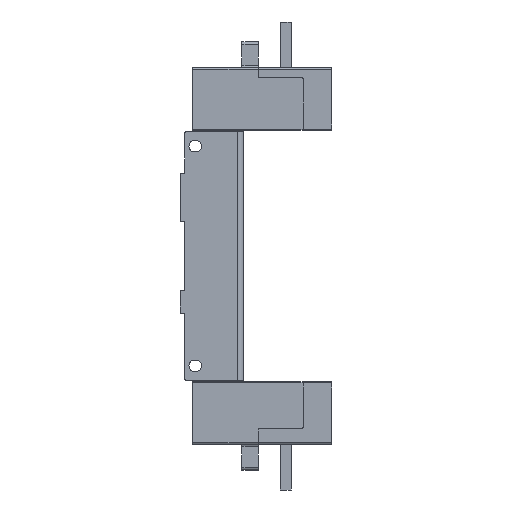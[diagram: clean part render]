
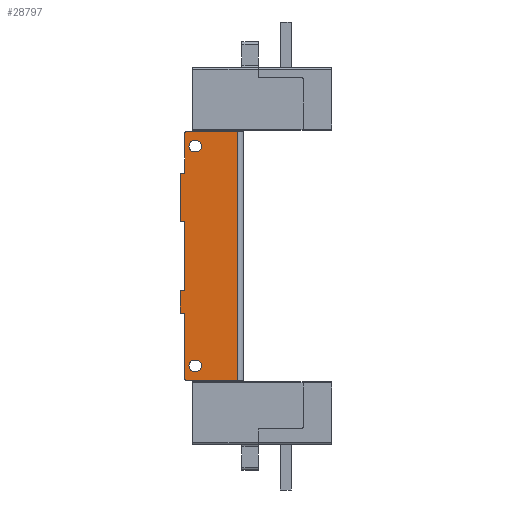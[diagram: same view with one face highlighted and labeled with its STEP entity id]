
A CAD part, left-side view. The second image highlights one B-rep face of the part: STEP entity #28797.
In plain terms, the highlighted planar face has unit normal (-1, 0, 0).
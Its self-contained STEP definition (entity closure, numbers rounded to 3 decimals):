
#25619=DIRECTION('',(0.,0.,1.));
#25620=VECTOR('',#25619,33.);
#25621=CARTESIAN_POINT('',(-67.,43.,26.));
#25622=LINE('',#25621,#25620);
#26422=DIRECTION('',(0.,1.,0.));
#26423=VECTOR('',#26422,37.5);
#26424=CARTESIAN_POINT('',(-67.,1.,-91.));
#26425=LINE('',#26424,#26423);
#26426=DIRECTION('',(0.,1.,0.));
#26427=VECTOR('',#26426,37.5);
#26428=CARTESIAN_POINT('',(-67.,1.,91.));
#26429=LINE('',#26428,#26427);
#26430=CARTESIAN_POINT('',(-67.,38.5,-90.));
#26431=DIRECTION('',(-1.,0.,0.));
#26432=DIRECTION('',(0.,1.,0.));
#26433=AXIS2_PLACEMENT_3D('',#26430,#26431,#26432);
#26435=DIRECTION('',(0.,0.,-1.));
#26436=VECTOR('',#26435,47.);
#26437=CARTESIAN_POINT('',(-67.,39.5,-43.));
#26438=LINE('',#26437,#26436);
#26439=CARTESIAN_POINT('',(-67.,40.5,-43.));
#26440=DIRECTION('',(1.,0.,0.));
#26441=DIRECTION('',(0.,0.,1.));
#26442=AXIS2_PLACEMENT_3D('',#26439,#26440,#26441);
#26444=CARTESIAN_POINT('',(-67.,42.,-41.));
#26445=DIRECTION('',(-1.,0.,0.));
#26446=DIRECTION('',(0.,1.,0.));
#26447=AXIS2_PLACEMENT_3D('',#26444,#26445,#26446);
#26449=DIRECTION('',(0.,1.,0.));
#26450=VECTOR('',#26449,2.5);
#26451=CARTESIAN_POINT('',(-67.,40.5,-25.));
#26452=LINE('',#26451,#26450);
#26453=CARTESIAN_POINT('',(-67.,40.5,-24.));
#26454=DIRECTION('',(1.,0.,0.));
#26455=DIRECTION('',(0.,-1.,0.));
#26456=AXIS2_PLACEMENT_3D('',#26453,#26454,#26455);
#26458=DIRECTION('',(0.,0.,-1.));
#26459=VECTOR('',#26458,48.);
#26460=CARTESIAN_POINT('',(-67.,39.5,24.));
#26461=LINE('',#26460,#26459);
#26462=CARTESIAN_POINT('',(-67.,40.5,24.));
#26463=DIRECTION('',(1.,0.,0.));
#26464=DIRECTION('',(0.,0.,1.));
#26465=AXIS2_PLACEMENT_3D('',#26462,#26463,#26464);
#26467=DIRECTION('',(0.,-1.,0.));
#26468=VECTOR('',#26467,1.5);
#26469=CARTESIAN_POINT('',(-67.,42.,25.));
#26470=LINE('',#26469,#26468);
#26471=CARTESIAN_POINT('',(-67.,42.,26.));
#26472=DIRECTION('',(-1.,0.,0.));
#26473=DIRECTION('',(0.,1.,0.));
#26474=AXIS2_PLACEMENT_3D('',#26471,#26472,#26473);
#26476=CARTESIAN_POINT('',(-67.,42.,59.));
#26477=DIRECTION('',(-1.,0.,0.));
#26478=DIRECTION('',(0.,0.,1.));
#26479=AXIS2_PLACEMENT_3D('',#26476,#26477,#26478);
#26481=DIRECTION('',(0.,1.,0.));
#26482=VECTOR('',#26481,1.5);
#26483=CARTESIAN_POINT('',(-67.,40.5,60.));
#26484=LINE('',#26483,#26482);
#26485=CARTESIAN_POINT('',(-67.,40.5,61.));
#26486=DIRECTION('',(1.,0.,0.));
#26487=DIRECTION('',(0.,-1.,0.));
#26488=AXIS2_PLACEMENT_3D('',#26485,#26486,#26487);
#26490=DIRECTION('',(0.,0.,-1.));
#26491=VECTOR('',#26490,29.);
#26492=CARTESIAN_POINT('',(-67.,39.5,90.));
#26493=LINE('',#26492,#26491);
#26494=CARTESIAN_POINT('',(-67.,38.5,90.));
#26495=DIRECTION('',(-1.,0.,0.));
#26496=DIRECTION('',(0.,0.,1.));
#26497=AXIS2_PLACEMENT_3D('',#26494,#26495,#26496);
#26499=DIRECTION('',(0.,1.,0.));
#26500=VECTOR('',#26499,1.);
#26501=CARTESIAN_POINT('',(-67.,31.5,75.9));
#26502=LINE('',#26501,#26500);
#26503=CARTESIAN_POINT('',(-67.,31.5,80.));
#26504=DIRECTION('',(1.,0.,0.));
#26505=DIRECTION('',(0.,0.,1.));
#26506=AXIS2_PLACEMENT_3D('',#26503,#26504,#26505);
#26508=DIRECTION('',(0.,-1.,0.));
#26509=VECTOR('',#26508,1.);
#26510=CARTESIAN_POINT('',(-67.,32.5,84.1));
#26511=LINE('',#26510,#26509);
#26512=CARTESIAN_POINT('',(-67.,32.5,80.));
#26513=DIRECTION('',(1.,0.,0.));
#26514=DIRECTION('',(0.,0.,-1.));
#26515=AXIS2_PLACEMENT_3D('',#26512,#26513,#26514);
#26517=DIRECTION('',(0.,-1.,0.));
#26518=VECTOR('',#26517,1.);
#26519=CARTESIAN_POINT('',(-67.,32.5,-75.9));
#26520=LINE('',#26519,#26518);
#26521=CARTESIAN_POINT('',(-67.,32.5,-80.));
#26522=DIRECTION('',(1.,0.,0.));
#26523=DIRECTION('',(0.,0.,-1.));
#26524=AXIS2_PLACEMENT_3D('',#26521,#26522,#26523);
#26526=DIRECTION('',(0.,1.,0.));
#26527=VECTOR('',#26526,1.);
#26528=CARTESIAN_POINT('',(-67.,31.5,-84.1));
#26529=LINE('',#26528,#26527);
#26530=CARTESIAN_POINT('',(-67.,31.5,-80.));
#26531=DIRECTION('',(1.,0.,0.));
#26532=DIRECTION('',(0.,0.,1.));
#26533=AXIS2_PLACEMENT_3D('',#26530,#26531,#26532);
#26535=DIRECTION('',(0.,0.,-1.));
#26536=VECTOR('',#26535,182.);
#26537=CARTESIAN_POINT('',(-67.,1.,91.));
#26538=LINE('',#26537,#26536);
#27377=DIRECTION('',(0.,1.,0.));
#27378=VECTOR('',#27377,1.5);
#27379=CARTESIAN_POINT('',(-67.,40.5,-42.));
#27380=LINE('',#27379,#27378);
#27393=DIRECTION('',(0.,0.,1.));
#27394=VECTOR('',#27393,16.);
#27395=CARTESIAN_POINT('',(-67.,43.,-41.));
#27396=LINE('',#27395,#27394);
#27589=CARTESIAN_POINT('',(-67.,43.,26.));
#27590=VERTEX_POINT('',#27589);
#27591=CARTESIAN_POINT('',(-67.,43.,59.));
#27592=VERTEX_POINT('',#27591);
#27593=CARTESIAN_POINT('',(-67.,31.5,75.9));
#27594=CARTESIAN_POINT('',(-67.,32.5,75.9));
#27595=VERTEX_POINT('',#27593);
#27596=VERTEX_POINT('',#27594);
#27597=CARTESIAN_POINT('',(-67.,32.5,84.1));
#27598=VERTEX_POINT('',#27597);
#27599=CARTESIAN_POINT('',(-67.,31.5,84.1));
#27600=VERTEX_POINT('',#27599);
#27601=CARTESIAN_POINT('',(-67.,32.5,-75.9));
#27602=CARTESIAN_POINT('',(-67.,31.5,-75.9));
#27603=VERTEX_POINT('',#27601);
#27604=VERTEX_POINT('',#27602);
#27605=CARTESIAN_POINT('',(-67.,31.5,-84.1));
#27606=VERTEX_POINT('',#27605);
#27607=CARTESIAN_POINT('',(-67.,32.5,-84.1));
#27608=VERTEX_POINT('',#27607);
#27609=CARTESIAN_POINT('',(-67.,1.,91.));
#27610=CARTESIAN_POINT('',(-67.,38.5,91.));
#27611=VERTEX_POINT('',#27609);
#27612=VERTEX_POINT('',#27610);
#27613=CARTESIAN_POINT('',(-67.,39.5,90.));
#27614=VERTEX_POINT('',#27613);
#27619=CARTESIAN_POINT('',(-67.,39.5,61.));
#27620=VERTEX_POINT('',#27619);
#27621=CARTESIAN_POINT('',(-67.,40.5,60.));
#27622=VERTEX_POINT('',#27621);
#27627=CARTESIAN_POINT('',(-67.,42.,60.));
#27628=VERTEX_POINT('',#27627);
#27629=CARTESIAN_POINT('',(-67.,43.,-41.));
#27630=VERTEX_POINT('',#27629);
#27631=CARTESIAN_POINT('',(-67.,43.,-25.));
#27632=VERTEX_POINT('',#27631);
#27637=CARTESIAN_POINT('',(-67.,39.5,-90.));
#27638=VERTEX_POINT('',#27637);
#27639=CARTESIAN_POINT('',(-67.,40.5,25.));
#27640=CARTESIAN_POINT('',(-67.,39.5,24.));
#27641=VERTEX_POINT('',#27639);
#27642=VERTEX_POINT('',#27640);
#27647=CARTESIAN_POINT('',(-67.,1.,-91.));
#27649=VERTEX_POINT('',#27647);
#27655=CARTESIAN_POINT('',(-67.,38.5,-91.));
#27656=VERTEX_POINT('',#27655);
#27681=CARTESIAN_POINT('',(-67.,42.,-42.));
#27682=VERTEX_POINT('',#27681);
#27695=CARTESIAN_POINT('',(-67.,40.5,-42.));
#27696=VERTEX_POINT('',#27695);
#27737=CARTESIAN_POINT('',(-67.,40.5,-25.));
#27738=VERTEX_POINT('',#27737);
#27779=CARTESIAN_POINT('',(-67.,39.5,-43.));
#27780=VERTEX_POINT('',#27779);
#27781=CARTESIAN_POINT('',(-67.,39.5,-24.));
#27782=VERTEX_POINT('',#27781);
#27783=CARTESIAN_POINT('',(-67.,42.,25.));
#27784=VERTEX_POINT('',#27783);
#28733=CARTESIAN_POINT('',(-67.,43.,91.));
#28734=DIRECTION('',(1.,0.,0.));
#28735=DIRECTION('',(0.,0.,-1.));
#28736=AXIS2_PLACEMENT_3D('',#28733,#28734,#28735);
#28737=PLANE('',#28736);
#28738=ORIENTED_EDGE('',*,*,#28211,.F.);
#28740=ORIENTED_EDGE('',*,*,#28739,.T.);
#28741=ORIENTED_EDGE('',*,*,#28724,.T.);
#28743=ORIENTED_EDGE('',*,*,#28742,.F.);
#28745=ORIENTED_EDGE('',*,*,#28744,.F.);
#28747=ORIENTED_EDGE('',*,*,#28746,.F.);
#28749=ORIENTED_EDGE('',*,*,#28748,.T.);
#28751=ORIENTED_EDGE('',*,*,#28750,.F.);
#28753=ORIENTED_EDGE('',*,*,#28752,.T.);
#28755=ORIENTED_EDGE('',*,*,#28754,.F.);
#28757=ORIENTED_EDGE('',*,*,#28756,.F.);
#28759=ORIENTED_EDGE('',*,*,#28758,.F.);
#28761=ORIENTED_EDGE('',*,*,#28760,.F.);
#28763=ORIENTED_EDGE('',*,*,#28762,.F.);
#28765=ORIENTED_EDGE('',*,*,#28764,.F.);
#28766=ORIENTED_EDGE('',*,*,#28098,.T.);
#28768=ORIENTED_EDGE('',*,*,#28767,.F.);
#28770=ORIENTED_EDGE('',*,*,#28769,.F.);
#28772=ORIENTED_EDGE('',*,*,#28771,.F.);
#28773=ORIENTED_EDGE('',*,*,#28182,.F.);
#28774=ORIENTED_EDGE('',*,*,#28197,.F.);
#28775=EDGE_LOOP('',(#28738,#28740,#28741,#28743,#28745,#28747,#28749,#28751,
#28753,#28755,#28757,#28759,#28761,#28763,#28765,#28766,#28768,#28770,#28772,
#28773,#28774));
#28776=FACE_OUTER_BOUND('',#28775,.F.);
#28778=ORIENTED_EDGE('',*,*,#28777,.F.);
#28780=ORIENTED_EDGE('',*,*,#28779,.F.);
#28782=ORIENTED_EDGE('',*,*,#28781,.F.);
#28784=ORIENTED_EDGE('',*,*,#28783,.F.);
#28785=EDGE_LOOP('',(#28778,#28780,#28782,#28784));
#28786=FACE_BOUND('',#28785,.F.);
#28788=ORIENTED_EDGE('',*,*,#28787,.F.);
#28790=ORIENTED_EDGE('',*,*,#28789,.F.);
#28792=ORIENTED_EDGE('',*,*,#28791,.F.);
#28794=ORIENTED_EDGE('',*,*,#28793,.F.);
#28795=EDGE_LOOP('',(#28788,#28790,#28792,#28794));
#28796=FACE_BOUND('',#28795,.F.);
#28797=ADVANCED_FACE('',(#28776,#28786,#28796),#28737,.F.);
#26434=CIRCLE('',#26433,1.);
#26443=CIRCLE('',#26442,1.);
#26448=CIRCLE('',#26447,1.);
#26457=CIRCLE('',#26456,1.);
#26466=CIRCLE('',#26465,1.);
#26475=CIRCLE('',#26474,1.);
#26480=CIRCLE('',#26479,1.);
#26489=CIRCLE('',#26488,1.);
#26498=CIRCLE('',#26497,1.);
#26507=CIRCLE('',#26506,4.1);
#26516=CIRCLE('',#26515,4.1);
#26525=CIRCLE('',#26524,4.1);
#26534=CIRCLE('',#26533,4.1);
#28098=EDGE_CURVE('',#27590,#27592,#25622,.T.);
#28182=EDGE_CURVE('',#27614,#27620,#26493,.T.);
#28197=EDGE_CURVE('',#27612,#27614,#26498,.T.);
#28211=EDGE_CURVE('',#27611,#27612,#26429,.T.);
#28724=EDGE_CURVE('',#27649,#27656,#26425,.T.);
#28739=EDGE_CURVE('',#27611,#27649,#26538,.T.);
#28742=EDGE_CURVE('',#27638,#27656,#26434,.T.);
#28744=EDGE_CURVE('',#27780,#27638,#26438,.T.);
#28746=EDGE_CURVE('',#27696,#27780,#26443,.T.);
#28748=EDGE_CURVE('',#27696,#27682,#27380,.T.);
#28750=EDGE_CURVE('',#27630,#27682,#26448,.T.);
#28752=EDGE_CURVE('',#27630,#27632,#27396,.T.);
#28754=EDGE_CURVE('',#27738,#27632,#26452,.T.);
#28756=EDGE_CURVE('',#27782,#27738,#26457,.T.);
#28758=EDGE_CURVE('',#27642,#27782,#26461,.T.);
#28760=EDGE_CURVE('',#27641,#27642,#26466,.T.);
#28762=EDGE_CURVE('',#27784,#27641,#26470,.T.);
#28764=EDGE_CURVE('',#27590,#27784,#26475,.T.);
#28767=EDGE_CURVE('',#27628,#27592,#26480,.T.);
#28769=EDGE_CURVE('',#27622,#27628,#26484,.T.);
#28771=EDGE_CURVE('',#27620,#27622,#26489,.T.);
#28777=EDGE_CURVE('',#27595,#27596,#26502,.T.);
#28779=EDGE_CURVE('',#27600,#27595,#26507,.T.);
#28781=EDGE_CURVE('',#27598,#27600,#26511,.T.);
#28783=EDGE_CURVE('',#27596,#27598,#26516,.T.);
#28787=EDGE_CURVE('',#27603,#27604,#26520,.T.);
#28789=EDGE_CURVE('',#27608,#27603,#26525,.T.);
#28791=EDGE_CURVE('',#27606,#27608,#26529,.T.);
#28793=EDGE_CURVE('',#27604,#27606,#26534,.T.);
